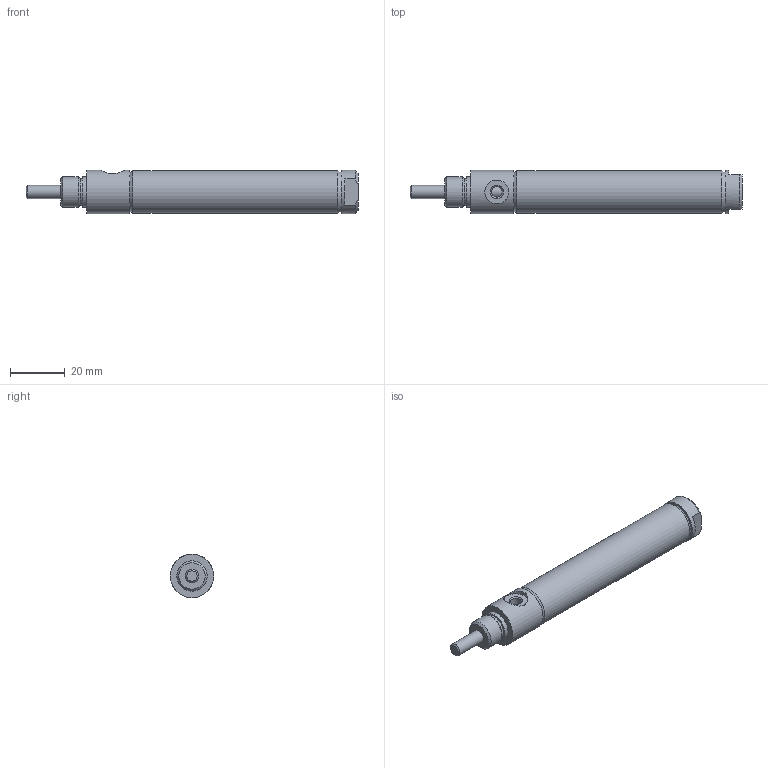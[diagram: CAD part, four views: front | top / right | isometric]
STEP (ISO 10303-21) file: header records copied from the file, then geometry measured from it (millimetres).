
FILE_DESCRIPTION( ( 'STEP AP214' ), '1' );
FILE_NAME( 'p:/temp/worker_378/temp/exporttempdir_3096_411_kRHUu/format_0/0563D01-02A.stp', '2020-05-07T12:54:05', ( 'License CC BY-ND 4.0' ), ( 'CADENAS' ), ' ', 'PARTsolutions', ' ' );
FILE_SCHEMA( ( 'AUTOMOTIVE_DESIGN { 1 0 10303 214 1 1 1 1 }' ) );
Length unit declared in the file: inch
Products named in the file (3): 0563D01-02A; _0563D01-02A-000b; _0563D01-02A-000r
Assembly tree (2 placements, depth 2):
  0563D01-02A
    _0563D01-02A-000b
    _0563D01-02A-000r
Bounding box: 121.44 x 15.88 x 15.88 mm (x, y, z)
Volume: 12224.6 mm3; surface area: 12556.5 mm2
Topology: 2 solids, 2 shells, 42 faces, 77 edges, 49 vertices
Faces by surface type: plane 18, cylinder 15, cone 9
Full cylindrical faces by diameter (mm): 3.967 x2, 4.775 x3, 4.826 x1, 8.738 x1, 9.601 x1, 11.1 x1, 11.112 x1, 14.287 x2, 15.392 x1, 15.875 x2
Entity records: 1446 total; most frequent: CARTESIAN_POINT 289, DIRECTION 176, ORIENTED_EDGE 106, AXIS2_PLACEMENT_3D 84, EDGE_LOOP 78, FACE_OUTER_BOUND 57, EDGE_CURVE 53, VERTEX_POINT 47
